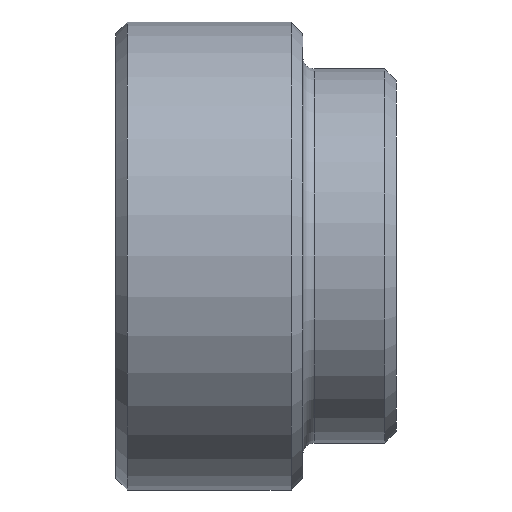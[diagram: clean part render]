
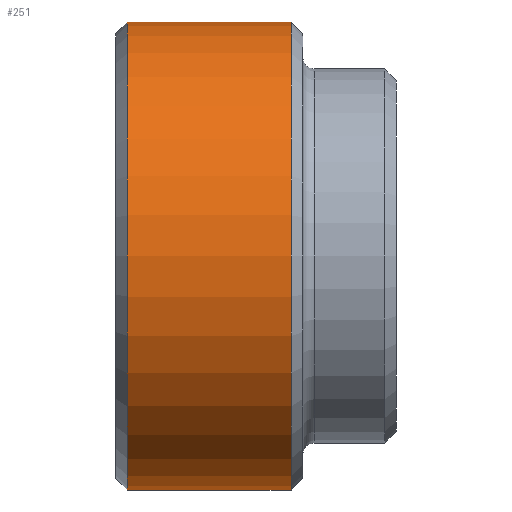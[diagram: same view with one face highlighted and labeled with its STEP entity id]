
A CAD part, front view. The second image highlights one B-rep face of the part: STEP entity #251.
In plain terms, the highlighted cylindrical face has radius 20 mm (diameter 40 mm), a full revolution.
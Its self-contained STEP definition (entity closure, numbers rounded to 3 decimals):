
#251=ADVANCED_FACE('',(#4810,#4812),#4814,.T.);
#4810=FACE_OUTER_BOUND('',#4811,.T.);
#4811=EDGE_LOOP('',(#5482));
#4812=FACE_OUTER_BOUND('',#4813,.T.);
#4813=EDGE_LOOP('',(#5483));
#4814=CYLINDRICAL_SURFACE('',#4815,20.);
#4815=AXIS2_PLACEMENT_3D('',#4816,#4817,#4818);
#4816=CARTESIAN_POINT('',(16.,0.,0.));
#4817=DIRECTION('',(-1.,0.,0.));
#4818=DIRECTION('',(0.,0.,-1.));
#5482=ORIENTED_EDGE('',*,*,#5565,.T.);
#5483=ORIENTED_EDGE('',*,*,#5567,.F.);
#5565=EDGE_CURVE('',#5673,#5673,#5674,.T.);
#5567=EDGE_CURVE('',#5677,#5677,#5678,.T.);
#5673=VERTEX_POINT('',#8077);
#5674=CIRCLE('',#8078,20.);
#5677=VERTEX_POINT('',#8087);
#5678=CIRCLE('',#8088,20.);
#8077=CARTESIAN_POINT('',(15.,0.,-20.));
#8078=AXIS2_PLACEMENT_3D('',#8079,#8080,#8081);
#8079=CARTESIAN_POINT('',(15.,0.,0.));
#8080=DIRECTION('',(-1.,0.,0.));
#8081=DIRECTION('',(0.,0.,-1.));
#8087=CARTESIAN_POINT('',(1.,0.,-20.));
#8088=AXIS2_PLACEMENT_3D('',#8089,#8090,#8091);
#8089=CARTESIAN_POINT('',(1.,0.,0.));
#8090=DIRECTION('',(-1.,0.,0.));
#8091=DIRECTION('',(0.,0.,-1.));
